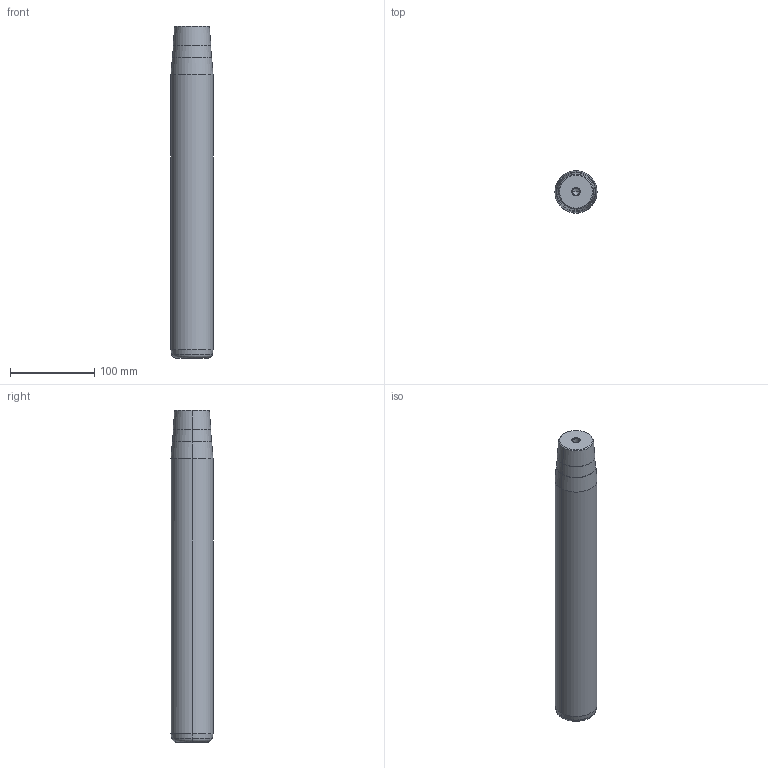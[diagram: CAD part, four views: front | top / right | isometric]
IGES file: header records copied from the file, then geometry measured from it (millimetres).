
Start section: START RECORD GO HERE.
Global section: file name: 722-50x355x395.igs; native system: DASSAULT SYSTEMES CATIA V5 R20 - www.3ds.com; preprocessor: CATIA Version 5 Release 20 ; author: Utente; organization: NB04-ASUS; date: 20210107.203617; units: millimetre
Bounding box: 50 x 50 x 395 mm (x, y, z)
Surface area: 65445.4 mm2 (no closed solid volume)
Topology: 0 solids, 0 shells, 32 faces, 128 edges, 124 vertices
Faces by surface type: revolution 30, plane 2
